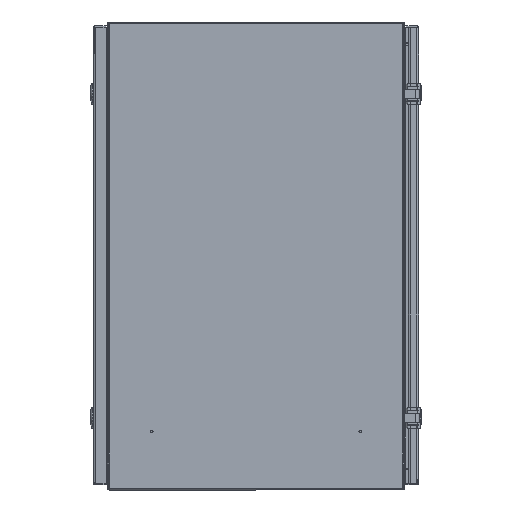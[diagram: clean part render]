
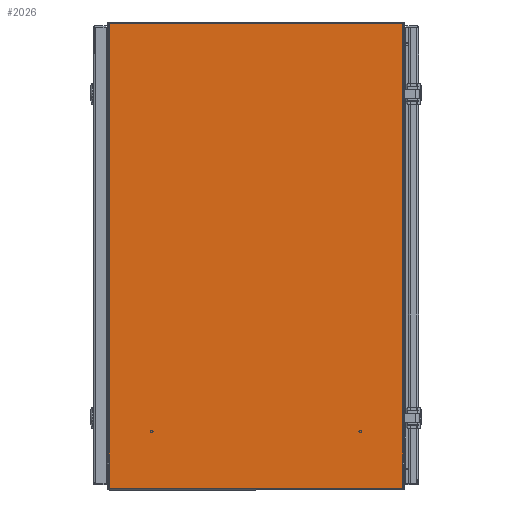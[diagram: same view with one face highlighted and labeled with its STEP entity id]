
A CAD part, left-side view. The second image highlights one B-rep face of the part: STEP entity #2026.
In plain terms, the highlighted planar face has unit normal (-1, 0, 0) as drawn and (1, 0, 0) by its records, which use the part's own axes.
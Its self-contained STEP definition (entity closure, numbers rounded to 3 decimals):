
#2026 = ADVANCED_FACE( '', ( #3171 ), #3172, .T. );
#3171 = FACE_OUTER_BOUND( '', #5974, .T. );
#3172 = PLANE( '', #5975 );
#5974 = EDGE_LOOP( '', ( #11027, #11028, #11029, #11030 ) );
#5975 = AXIS2_PLACEMENT_3D( '', #11031, #11032, #11033 );
#11027 = ORIENTED_EDGE( '', *, *, #15083, .T. );
#11028 = ORIENTED_EDGE( '', *, *, #15020, .T. );
#11029 = ORIENTED_EDGE( '', *, *, #15111, .T. );
#11030 = ORIENTED_EDGE( '', *, *, #15146, .F. );
#11031 = CARTESIAN_POINT( '', ( 303.886, 209.55, -329.286 ) );
#11032 = DIRECTION( '', ( 1., 0., 0. ) );
#11033 = DIRECTION( '', ( 0., 0., -1. ) );
#15020 = EDGE_CURVE( '', #17045, #17049, #17051, .T. );
#15083 = EDGE_CURVE( '', #17169, #17045, #17170, .T. );
#15111 = EDGE_CURVE( '', #17049, #17213, #17215, .T. );
#15146 = EDGE_CURVE( '', #17169, #17213, #17268, .T. );
#17045 = VERTEX_POINT( '', #20321 );
#17049 = VERTEX_POINT( '', #20326 );
#17051 = LINE( '', #20328, #20329 );
#17169 = VERTEX_POINT( '', #20520 );
#17170 = LINE( '', #20521, #20522 );
#17213 = VERTEX_POINT( '', #20650 );
#17215 = LINE( '', #20661, #20662 );
#17268 = LINE( '', #20770, #20771 );
#20321 = CARTESIAN_POINT( '', ( 303.886, 206.807, 326.542 ) );
#20326 = CARTESIAN_POINT( '', ( 303.886, -206.807, 326.542 ) );
#20328 = CARTESIAN_POINT( '', ( 303.886, 209.55, 326.542 ) );
#20329 = VECTOR( '', #24695, 1000. );
#20520 = CARTESIAN_POINT( '', ( 303.886, 206.807, -329.286 ) );
#20521 = CARTESIAN_POINT( '', ( 303.886, 206.807, -329.286 ) );
#20522 = VECTOR( '', #24786, 1000. );
#20650 = CARTESIAN_POINT( '', ( 303.886, -206.807, -329.286 ) );
#20661 = CARTESIAN_POINT( '', ( 303.886, -206.807, 326.542 ) );
#20662 = VECTOR( '', #24805, 1000. );
#20770 = CARTESIAN_POINT( '', ( 303.886, 209.55, -329.286 ) );
#20771 = VECTOR( '', #24843, 1000. );
#24695 = DIRECTION( '', ( 0., -1., 0. ) );
#24786 = DIRECTION( '', ( 0., 0., 1. ) );
#24805 = DIRECTION( '', ( 0., 0., -1. ) );
#24843 = DIRECTION( '', ( 0., -1., 0. ) );
